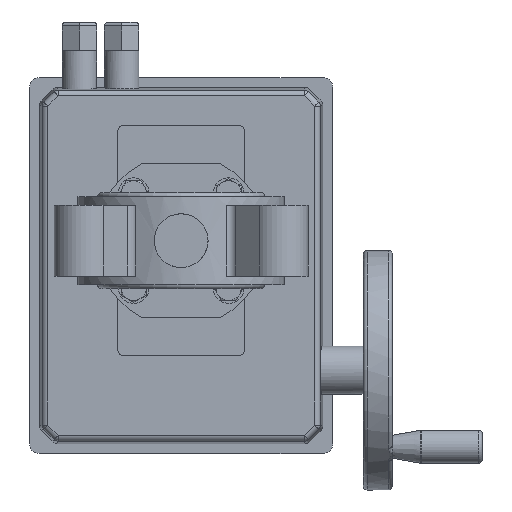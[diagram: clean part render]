
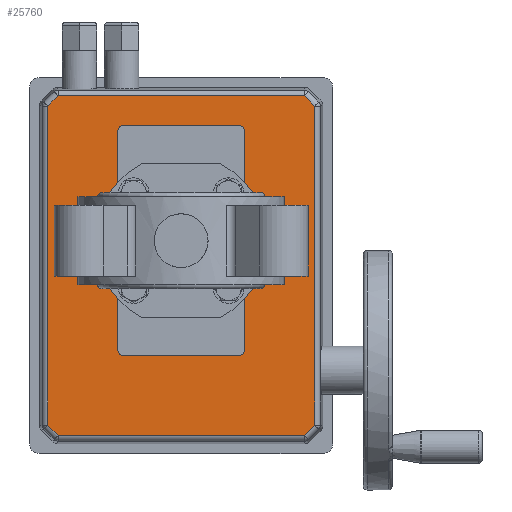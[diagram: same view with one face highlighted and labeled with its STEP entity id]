
A CAD part, front view. The second image highlights one B-rep face of the part: STEP entity #25760.
In plain terms, the highlighted planar face has unit normal (0, -1, 0).
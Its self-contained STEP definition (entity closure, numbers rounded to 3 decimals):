
#457 = CARTESIAN_POINT ( 'NONE',  ( 82.84, -45., 82.84 ) ) ;
#494 = VECTOR ( 'NONE', #20567, 1000. ) ;
#776 = EDGE_LOOP ( 'NONE', ( #14758, #20944, #11409, #24204, #17899, #7818, #9361, #2777 ) ) ;
#809 = LINE ( 'NONE', #15359, #9403 ) ;
#1094 = VERTEX_POINT ( 'NONE', #26732 ) ;
#1311 = CARTESIAN_POINT ( 'NONE',  ( -60., -45., -30. ) ) ;
#1489 = DIRECTION ( 'NONE',  ( 0., 0., -1. ) ) ;
#1572 = DIRECTION ( 'NONE',  ( 0., 1., 0. ) ) ;
#1639 = AXIS2_PLACEMENT_3D ( 'NONE', #14167, #12136, #5892 ) ;
#1799 = VERTEX_POINT ( 'NONE', #17200 ) ;
#2250 = EDGE_CURVE ( 'NONE', #18460, #21915, #4103, .T. ) ;
#2429 = CARTESIAN_POINT ( 'NONE',  ( 96.149, -45., -69.531 ) ) ;
#2445 = CARTESIAN_POINT ( 'NONE',  ( -70.149, -45., -69.531 ) ) ;
#2468 = VERTEX_POINT ( 'NONE', #10473 ) ;
#2596 = ORIENTED_EDGE ( 'NONE', *, *, #26608, .F. ) ;
#2634 = CIRCLE ( 'NONE', #12624, 3. ) ;
#2728 = DIRECTION ( 'NONE',  ( 0., 0., -1. ) ) ;
#2777 = ORIENTED_EDGE ( 'NONE', *, *, #11501, .T. ) ;
#3040 = DIRECTION ( 'NONE',  ( 1., 0., 0. ) ) ;
#3443 = ORIENTED_EDGE ( 'NONE', *, *, #21657, .T. ) ;
#3595 = VECTOR ( 'NONE', #8010, 1000. ) ;
#3692 = LINE ( 'NONE', #11982, #23897 ) ;
#4042 = VERTEX_POINT ( 'NONE', #26579 ) ;
#4103 = LINE ( 'NONE', #18610, #11735 ) ;
#4108 = EDGE_CURVE ( 'NONE', #18141, #11823, #24102, .T. ) ;
#4194 = LINE ( 'NONE', #12212, #12747 ) ;
#5119 = LINE ( 'NONE', #19096, #10989 ) ;
#5224 = CARTESIAN_POINT ( 'NONE',  ( -57., -45., 33. ) ) ;
#5892 = DIRECTION ( 'NONE',  ( 0., 0., 1. ) ) ;
#6950 = ORIENTED_EDGE ( 'NONE', *, *, #8101, .T. ) ;
#6989 = CARTESIAN_POINT ( 'NONE',  ( -75.531, -45., 64.149 ) ) ;
#6991 = DIRECTION ( 'NONE',  ( -0.707, 0., 0.707 ) ) ;
#7062 = CARTESIAN_POINT ( 'NONE',  ( 101.531, -45., 64.149 ) ) ;
#7283 = VECTOR ( 'NONE', #3040, 1000. ) ;
#7818 = ORIENTED_EDGE ( 'NONE', *, *, #19365, .T. ) ;
#7846 = ORIENTED_EDGE ( 'NONE', *, *, #4108, .T. ) ;
#8010 = DIRECTION ( 'NONE',  ( 0., 0., 1. ) ) ;
#8101 = EDGE_CURVE ( 'NONE', #19397, #1094, #24604, .T. ) ;
#8279 = DIRECTION ( 'NONE',  ( 0., 0., 1. ) ) ;
#8417 = CARTESIAN_POINT ( 'NONE',  ( 101.531, -45., 0. ) ) ;
#8418 = CARTESIAN_POINT ( 'NONE',  ( 0., -45., 0. ) ) ;
#9051 = LINE ( 'NONE', #25677, #19503 ) ;
#9111 = CARTESIAN_POINT ( 'NONE',  ( 101.531, -45., -64.149 ) ) ;
#9256 = EDGE_CURVE ( 'NONE', #17532, #2468, #9051, .T. ) ;
#9333 = CARTESIAN_POINT ( 'NONE',  ( 0., -45., -69.531 ) ) ;
#9361 = ORIENTED_EDGE ( 'NONE', *, *, #13354, .T. ) ;
#9403 = VECTOR ( 'NONE', #23599, 1000. ) ;
#9743 = VECTOR ( 'NONE', #1489, 1000. ) ;
#10206 = LINE ( 'NONE', #8417, #3595 ) ;
#10473 = CARTESIAN_POINT ( 'NONE',  ( -75.531, -45., -64.149 ) ) ;
#10515 = EDGE_LOOP ( 'NONE', ( #2596, #3443, #6950, #23979, #10590, #16599, #16879, #7846 ) ) ;
#10563 = CARTESIAN_POINT ( 'NONE',  ( 0., -45., 33. ) ) ;
#10590 = ORIENTED_EDGE ( 'NONE', *, *, #2250, .T. ) ;
#10603 = AXIS2_PLACEMENT_3D ( 'NONE', #17277, #14499, #18684 ) ;
#10989 = VECTOR ( 'NONE', #23676, 1000. ) ;
#11094 = DIRECTION ( 'NONE',  ( -1., 0., 0. ) ) ;
#11409 = ORIENTED_EDGE ( 'NONE', *, *, #19528, .T. ) ;
#11411 = EDGE_CURVE ( 'NONE', #2468, #22753, #809, .T. ) ;
#11501 = EDGE_CURVE ( 'NONE', #22462, #17532, #21283, .T. ) ;
#11578 = CARTESIAN_POINT ( 'NONE',  ( -76.38, -45., 63.301 ) ) ;
#11655 = DIRECTION ( 'NONE',  ( 0., 0., 1. ) ) ;
#11735 = VECTOR ( 'NONE', #2728, 1000. ) ;
#11823 = VERTEX_POINT ( 'NONE', #1311 ) ;
#11982 = CARTESIAN_POINT ( 'NONE',  ( -71.349, -45., 69.531 ) ) ;
#12136 = DIRECTION ( 'NONE',  ( 0., 1., 0. ) ) ;
#12212 = CARTESIAN_POINT ( 'NONE',  ( 0., -45., -33. ) ) ;
#12359 = FACE_BOUND ( 'NONE', #10515, .T. ) ;
#12450 = AXIS2_PLACEMENT_3D ( 'NONE', #14683, #16730, #20502 ) ;
#12622 = VERTEX_POINT ( 'NONE', #9111 ) ;
#12624 = AXIS2_PLACEMENT_3D ( 'NONE', #25832, #1572, #11655 ) ;
#12747 = VECTOR ( 'NONE', #14783, 1000. ) ;
#13036 = DIRECTION ( 'NONE',  ( -0.707, 0., -0.707 ) ) ;
#13106 = DIRECTION ( 'NONE',  ( 0., 0., -1. ) ) ;
#13118 = AXIS2_PLACEMENT_3D ( 'NONE', #8418, #18573, #8279 ) ;
#13354 = EDGE_CURVE ( 'NONE', #1799, #22462, #3692, .T. ) ;
#13756 = EDGE_CURVE ( 'NONE', #12622, #18265, #10206, .T. ) ;
#13980 = CARTESIAN_POINT ( 'NONE',  ( -60., -45., 0. ) ) ;
#14167 = CARTESIAN_POINT ( 'NONE',  ( 57., -45., -30. ) ) ;
#14268 = CARTESIAN_POINT ( 'NONE',  ( 60., -45., -30. ) ) ;
#14499 = DIRECTION ( 'NONE',  ( 0., 1., 0. ) ) ;
#14683 = CARTESIAN_POINT ( 'NONE',  ( -57., -45., -30. ) ) ;
#14758 = ORIENTED_EDGE ( 'NONE', *, *, #9256, .T. ) ;
#14783 = DIRECTION ( 'NONE',  ( 1., 0., 0. ) ) ;
#15359 = CARTESIAN_POINT ( 'NONE',  ( -69.84, -45., -69.84 ) ) ;
#16599 = ORIENTED_EDGE ( 'NONE', *, *, #19651, .T. ) ;
#16730 = DIRECTION ( 'NONE',  ( 0., 1., 0. ) ) ;
#16823 = FACE_OUTER_BOUND ( 'NONE', #776, .T. ) ;
#16879 = ORIENTED_EDGE ( 'NONE', *, *, #25781, .F. ) ;
#17200 = CARTESIAN_POINT ( 'NONE',  ( 96.149, -45., 69.531 ) ) ;
#17277 = CARTESIAN_POINT ( 'NONE',  ( -57., -45., 30. ) ) ;
#17522 = CIRCLE ( 'NONE', #10603, 3. ) ;
#17532 = VERTEX_POINT ( 'NONE', #6989 ) ;
#17539 = VERTEX_POINT ( 'NONE', #21473 ) ;
#17899 = ORIENTED_EDGE ( 'NONE', *, *, #13756, .T. ) ;
#18141 = VERTEX_POINT ( 'NONE', #18593 ) ;
#18265 = VERTEX_POINT ( 'NONE', #7062 ) ;
#18460 = VERTEX_POINT ( 'NONE', #20459 ) ;
#18573 = DIRECTION ( 'NONE',  ( 0., 1., 0. ) ) ;
#18593 = CARTESIAN_POINT ( 'NONE',  ( -57., -45., -33. ) ) ;
#18610 = CARTESIAN_POINT ( 'NONE',  ( 60., -45., 0. ) ) ;
#18684 = DIRECTION ( 'NONE',  ( 0., 0., 1. ) ) ;
#18733 = VECTOR ( 'NONE', #6991, 1000. ) ;
#18762 = EDGE_CURVE ( 'NONE', #1094, #18460, #2634, .T. ) ;
#19096 = CARTESIAN_POINT ( 'NONE',  ( 82.84, -45., -82.84 ) ) ;
#19365 = EDGE_CURVE ( 'NONE', #18265, #1799, #21068, .T. ) ;
#19397 = VERTEX_POINT ( 'NONE', #5224 ) ;
#19503 = VECTOR ( 'NONE', #13106, 1000. ) ;
#19528 = EDGE_CURVE ( 'NONE', #22753, #21440, #26326, .T. ) ;
#19651 = EDGE_CURVE ( 'NONE', #21915, #17539, #21552, .T. ) ;
#20459 = CARTESIAN_POINT ( 'NONE',  ( 60., -45., 30. ) ) ;
#20502 = DIRECTION ( 'NONE',  ( 0., 0., 1. ) ) ;
#20567 = DIRECTION ( 'NONE',  ( 1., 0., 0. ) ) ;
#20620 = VECTOR ( 'NONE', #13036, 1000. ) ;
#20944 = ORIENTED_EDGE ( 'NONE', *, *, #11411, .T. ) ;
#21068 = LINE ( 'NONE', #457, #18733 ) ;
#21283 = LINE ( 'NONE', #11578, #20620 ) ;
#21440 = VERTEX_POINT ( 'NONE', #2429 ) ;
#21470 = CARTESIAN_POINT ( 'NONE',  ( -70.149, -45., 69.531 ) ) ;
#21473 = CARTESIAN_POINT ( 'NONE',  ( 57., -45., -33. ) ) ;
#21552 = CIRCLE ( 'NONE', #1639, 3. ) ;
#21657 = EDGE_CURVE ( 'NONE', #4042, #19397, #17522, .T. ) ;
#21915 = VERTEX_POINT ( 'NONE', #14268 ) ;
#22462 = VERTEX_POINT ( 'NONE', #21470 ) ;
#22753 = VERTEX_POINT ( 'NONE', #2445 ) ;
#22881 = PLANE ( 'NONE',  #13118 ) ;
#23599 = DIRECTION ( 'NONE',  ( 0.707, 0., -0.707 ) ) ;
#23676 = DIRECTION ( 'NONE',  ( 0.707, 0., 0.707 ) ) ;
#23897 = VECTOR ( 'NONE', #11094, 1000. ) ;
#23979 = ORIENTED_EDGE ( 'NONE', *, *, #18762, .T. ) ;
#24102 = CIRCLE ( 'NONE', #12450, 3. ) ;
#24118 = LINE ( 'NONE', #13980, #9743 ) ;
#24204 = ORIENTED_EDGE ( 'NONE', *, *, #24824, .T. ) ;
#24604 = LINE ( 'NONE', #10563, #494 ) ;
#24824 = EDGE_CURVE ( 'NONE', #21440, #12622, #5119, .T. ) ;
#25677 = CARTESIAN_POINT ( 'NONE',  ( -75.531, -45., -65.349 ) ) ;
#25760 = ADVANCED_FACE ( 'NONE', ( #16823, #12359 ), #22881, .F. ) ;
#25781 = EDGE_CURVE ( 'NONE', #18141, #17539, #4194, .T. ) ;
#25832 = CARTESIAN_POINT ( 'NONE',  ( 57., -45., 30. ) ) ;
#26326 = LINE ( 'NONE', #9333, #7283 ) ;
#26579 = CARTESIAN_POINT ( 'NONE',  ( -60., -45., 30. ) ) ;
#26608 = EDGE_CURVE ( 'NONE', #4042, #11823, #24118, .T. ) ;
#26732 = CARTESIAN_POINT ( 'NONE',  ( 57., -45., 33. ) ) ;
